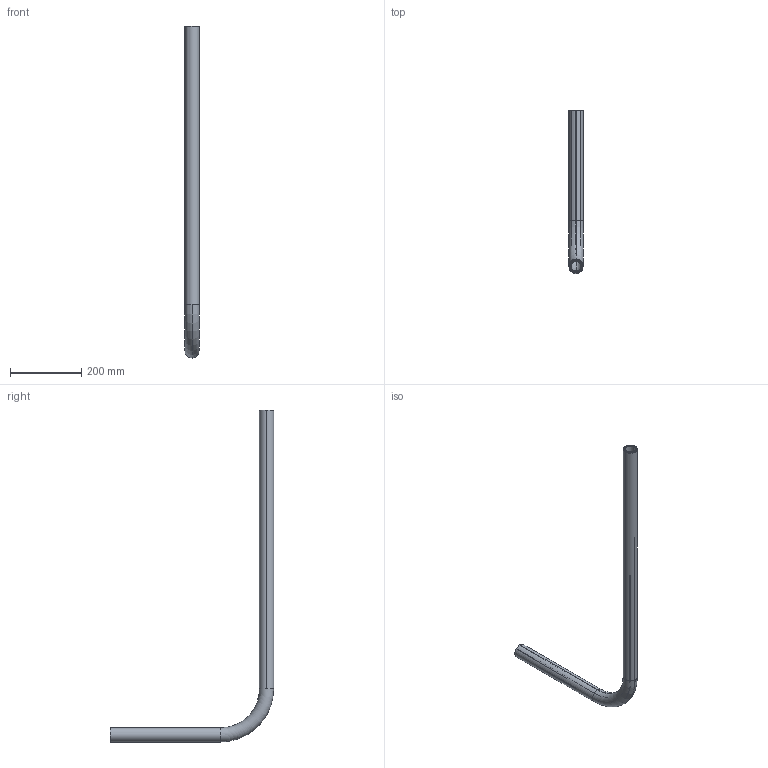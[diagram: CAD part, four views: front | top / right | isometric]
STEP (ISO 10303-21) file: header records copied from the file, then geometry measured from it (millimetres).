
FILE_DESCRIPTION (( 'STEP AP214' ), '1' );
FILE_NAME ('KP_3-40-32SCECL.STEP', '2023-10-10T10:27:38', ( '' ), ( '' ), 'SwSTEP 2.0', 'SolidWorks 2022', '' );
FILE_SCHEMA (( 'AUTOMOTIVE_DESIGN' ));
Length unit declared in the file: millimetre
Products named in the file (3): KP_3-40-32SCECL; 40b鐱_long; 32b鐱_long
Assembly tree (2 placements, depth 2):
  KP_3-40-32SCECL
    40b鐱_long
    32b鐱_long
Bounding box: 40 x 460 x 935 mm (x, y, z)
Volume: 643669.4 mm3; surface area: 563271 mm2
Topology: 2 solids, 2 shells, 80 faces, 186 edges, 111 vertices
Faces by surface type: cylinder 50, torus 25, plane 5
Entity records: 3213 total; most frequent: DIRECTION 492, CARTESIAN_POINT 382, ORIENTED_EDGE 372, AXIS2_PLACEMENT_3D 221, EDGE_CURVE 186, CIRCLE 136, VERTEX_POINT 111, EDGE_LOOP 85
